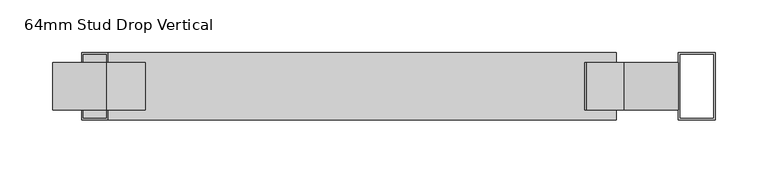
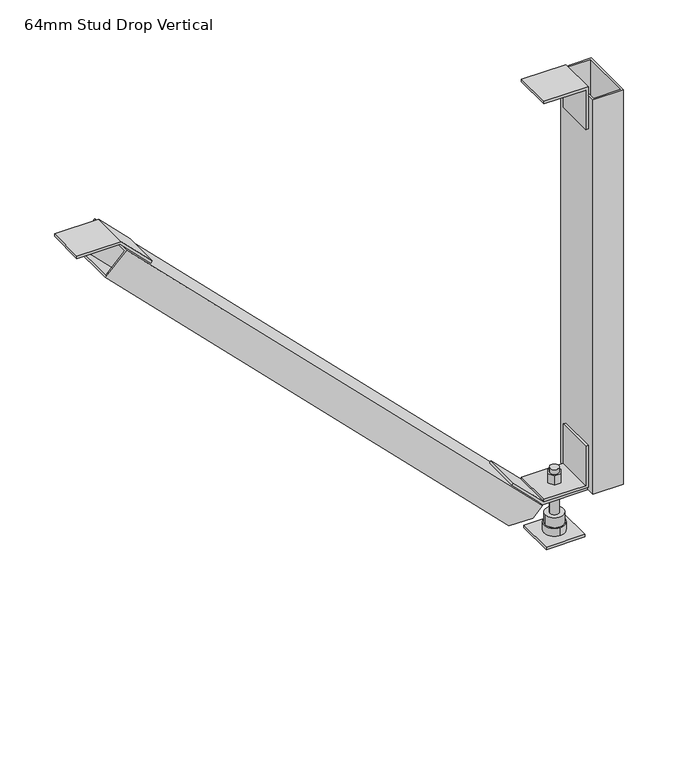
"""IFC4 building model written with IfcOpenShell, lengths in millimetres: beam geometry, Vertibrace Boxstud Brace : 64mm Stud Drop Vertical."""

from ifc_helpers import new_model, si_unit, frame, origin, origin_with_axes, place, context, project, spatial, polyline, circle_curve, outline, extrude, faceted_brep, source, transform, mapped, element, save
from ifc_brep_helpers import plane_surface, cylinder_surface, advanced_brep


def beam_64mm_stud_drop_vertical_d4cb6fa7(model_context):
    return source(origin(), model_context, "Body", "SolidModel", [
        extrude(outline(polyline([(547.0013294, 23.235654), (498.7734408, 23.235654), (498.7734408, 26.2343246), (550.0, 26.2343246), (550.0, -24.9922346), (547.0013294, -24.9922346), (547.0013294, 23.235654)])), frame((0.0, -22.5, 0.0), z_axis=(0.0, 1.0, 0.0), x_axis=(0.0, 0.0, 1.0)), (0.0, 0.0, 1.0), 45.0),
        extrude(outline(polyline([(547.0013294, -516.535654), (511.6569723, -481.1912969), (513.7773526, -479.0709166), (550.0, -515.293564), (550.0, -566.5201232), (547.0013294, -566.5201232), (547.0013294, -516.535654)])), frame((0.0, -22.5, 0.0), z_axis=(0.0, 1.0, 0.0), x_axis=(0.0, 0.0, 1.0)), (0.0, 0.0, 1.0), 45.0),
        extrude(outline(polyline([(62.6986706, 23.235654), (62.6986706, -24.9922346), (59.7, -24.9922346), (59.7, 26.2343246), (110.9265592, 26.2343246), (110.9265592, 23.235654), (62.6986706, 23.235654)])), frame((0.0, -22.5, 0.0), z_axis=(0.0, 1.0, 0.0), x_axis=(0.0, 0.0, 1.0)), (0.0, 0.0, 1.0), 45.0),
        extrude(outline(polyline([(59.6986706, -24.9922346), (95.0430277, -60.3365917), (92.9226474, -62.456972), (56.7, -26.2343246), (56.7, 24.9922346), (59.6986706, 24.9922346), (59.6986706, -24.9922346)])), frame((0.0, -22.5, 0.0), z_axis=(0.0, 1.0, 0.0), x_axis=(0.0, 0.0, 1.0)), (0.0, 0.0, 1.0), 45.0),
        extrude(outline(polyline([(22.5, 22.5), (22.5, -22.5), (-22.5, -22.5), (-22.5, 22.5), (22.5, 22.5)])), origin_with_axes(), (0.0, 0.0, 1.0), 3.0),
        advanced_brep(
        [(-5.0, 0.0, -10.0), (5.0, 0.0, -10.0), (-5.0, 0.0, 80.0), (5.0, 0.0, 80.0), (5.0, 0.0, 3.0), (-5.0, 0.0, 3.0), (-5.0, 0.0, 74.4), (5.0, 0.0, 74.4), (-5.0, 0.0, 25.0), (5.0, 0.0, 25.0), (5.0, 0.0, 50.0), (-5.0, 0.0, 50.0), (5.0, 0.0, 62.7), (-5.0, 0.0, 62.7), (-5.0, 0.0, 56.7), (5.0, 0.0, 56.7), (-10.5, 0.0, 25.0), (10.5, 0.0, 25.0), (-10.5, 0.0, 13.0), (10.5, 0.0, 13.0), (0.0, -12.0, 13.0), (0.0, 12.0, 13.0), (3.75, 6.4951905, 74.4), (-3.75, 6.4951905, 74.4), (-7.5, 0.0, 74.4), (-3.75, -6.4951905, 74.4), (3.75, -6.4951905, 74.4), (7.5, 0.0, 74.4), (3.75, 6.4951905, 62.7), (7.5, 0.0, 62.7), (3.75, -6.4951905, 62.7), (-3.75, -6.4951905, 62.7), (-7.5, 0.0, 62.7), (-3.75, 6.4951905, 62.7), (-10.9696551, 0.0, 56.7), (-5.4848276, -9.5, 56.7), (5.4848276, -9.5, 56.7), (10.9696551, 0.0, 56.7), (5.4848276, 9.5, 56.7), (-5.4848276, 9.5, 56.7), (-10.9696551, 0.0, 50.0), (-5.4848276, 9.5, 50.0), (5.4848276, 9.5, 50.0), (10.9696551, 0.0, 50.0), (5.4848276, -9.5, 50.0), (-5.4848276, -9.5, 50.0), (0.0, -12.0, 3.0), (0.0, 12.0, 3.0)],
        [
            (0, 1, circle_curve(frame((0.0, 0.0, -10.0), z_axis=(0.0, 0.0, -1.0), x_axis=(1.0, 0.0, 0.0)), 5.0)),
            (1, 0, circle_curve(frame((0.0, 0.0, -10.0), z_axis=(0.0, 0.0, -1.0), x_axis=(1.0, 0.0, 0.0)), 5.0)),
            (2, 3, circle_curve(frame((0.0, 0.0, 80.0), z_axis=(0.0, 0.0, 1.0), x_axis=(1.0, 0.0, 0.0)), 5.0)),
            (3, 2, circle_curve(frame((0.0, 0.0, 80.0), z_axis=(0.0, 0.0, 1.0), x_axis=(1.0, 0.0, 0.0)), 5.0)),
            (1, 4),
            (4, 5, circle_curve(frame((0.0, 0.0, 3.0), z_axis=(0.0, 0.0, -1.0), x_axis=(1.0, 0.0, 0.0)), 5.0)),
            (5, 0),
            (2, 6),
            (6, 7, circle_curve(frame((0.0, 0.0, 74.4), z_axis=(0.0, 0.0, 1.0), x_axis=(1.0, 0.0, 0.0)), 5.0)),
            (7, 3),
            (8, 9, circle_curve(frame((0.0, 0.0, 25.0), z_axis=(0.0, 0.0, 1.0), x_axis=(1.0, 0.0, 0.0)), 5.0)),
            (9, 10),
            (10, 11, circle_curve(frame((0.0, 0.0, 50.0), z_axis=(0.0, 0.0, -1.0), x_axis=(1.0, 0.0, 0.0)), 5.0)),
            (11, 8),
            (12, 13, circle_curve(frame((0.0, 0.0, 62.7), z_axis=(0.0, 0.0, -1.0), x_axis=(1.0, 0.0, 0.0)), 5.0)),
            (13, 14),
            (14, 15, circle_curve(frame((0.0, 0.0, 56.7), z_axis=(0.0, 0.0, 1.0), x_axis=(1.0, 0.0, 0.0)), 5.0)),
            (15, 12),
            (5, 4, circle_curve(frame((0.0, 0.0, 3.0), z_axis=(0.0, 0.0, -1.0), x_axis=(1.0, 0.0, 0.0)), 5.0)),
            (7, 6, circle_curve(frame((0.0, 0.0, 74.4), z_axis=(0.0, 0.0, 1.0), x_axis=(1.0, 0.0, 0.0)), 5.0)),
            (9, 8, circle_curve(frame((0.0, 0.0, 25.0), z_axis=(0.0, 0.0, 1.0), x_axis=(1.0, 0.0, 0.0)), 5.0)),
            (11, 10, circle_curve(frame((0.0, 0.0, 50.0), z_axis=(0.0, 0.0, -1.0), x_axis=(1.0, 0.0, 0.0)), 5.0)),
            (13, 12, circle_curve(frame((0.0, 0.0, 62.7), z_axis=(0.0, 0.0, -1.0), x_axis=(1.0, 0.0, 0.0)), 5.0)),
            (15, 14, circle_curve(frame((0.0, 0.0, 56.7), z_axis=(0.0, 0.0, 1.0), x_axis=(1.0, 0.0, 0.0)), 5.0)),
            (16, 17, circle_curve(frame((0.0, 0.0, 25.0), z_axis=(0.0, 0.0, 1.0), x_axis=(1.0, 0.0, 0.0)), 10.5)),
            (17, 16, circle_curve(frame((0.0, 0.0, 25.0), z_axis=(0.0, 0.0, 1.0), x_axis=(1.0, 0.0, 0.0)), 10.5)),
            (16, 18),
            (18, 19, circle_curve(frame((0.0, 0.0, 13.0), z_axis=(0.0, 0.0, 1.0), x_axis=(1.0, 0.0, 0.0)), 10.5)),
            (19, 17),
            (19, 18, circle_curve(frame((0.0, 0.0, 13.0), z_axis=(0.0, 0.0, 1.0), x_axis=(1.0, 0.0, 0.0)), 10.5)),
            (20, 21, circle_curve(frame((0.0, 0.0, 13.0), z_axis=(0.0, 0.0, 1.0), x_axis=(0.0, 1.0, 0.0)), 12.0)),
            (21, 20, circle_curve(frame((0.0, 0.0, 13.0), z_axis=(0.0, 0.0, 1.0), x_axis=(0.0, 1.0, 0.0)), 12.0)),
            (22, 23),
            (23, 24),
            (24, 25),
            (25, 26),
            (26, 27),
            (27, 22),
            (28, 29),
            (29, 30),
            (30, 31),
            (31, 32),
            (32, 33),
            (33, 28),
            (22, 28),
            (33, 23),
            (32, 24),
            (31, 25),
            (30, 26),
            (29, 27),
            (34, 35),
            (35, 36),
            (36, 37),
            (37, 38),
            (38, 39),
            (39, 34),
            (40, 41),
            (41, 42),
            (42, 43),
            (43, 44),
            (44, 45),
            (45, 40),
            (34, 40),
            (45, 35),
            (44, 36),
            (43, 37),
            (42, 38),
            (41, 39),
            (46, 47, circle_curve(frame((0.0, 0.0, 3.0), z_axis=(0.0, 0.0, -1.0), x_axis=(0.0, 1.0, 0.0)), 12.0)),
            (47, 46, circle_curve(frame((0.0, 0.0, 3.0), z_axis=(0.0, 0.0, -1.0), x_axis=(0.0, 1.0, 0.0)), 12.0)),
            (47, 21),
            (20, 46),
        ],
        [
            plane_surface(frame((5.0, 0.0, -10.0), z_axis=(0.0, 0.0, -1.0), x_axis=(0.0, -1.0, 0.0))),
            plane_surface(frame((5.0, 0.0, 80.0), z_axis=(0.0, 0.0, 1.0), x_axis=(0.0, 1.0, 0.0))),
            cylinder_surface(frame((0.0, 0.0, -10.0), z_axis=(0.0, 0.0, 1.0), x_axis=(1.0, 0.0, 0.0)), 5.0),
            plane_surface(frame((10.5, 0.0, 25.0), z_axis=(0.0, 0.0, 1.0), x_axis=(0.0, 1.0, 0.0))),
            cylinder_surface(frame((0.0, 0.0, 13.0), z_axis=(0.0, 0.0, 1.0), x_axis=(1.0, 0.0, 0.0)), 10.5),
            plane_surface(frame((0.0, 12.0, 13.0), z_axis=(0.0, 0.0, 1.0), x_axis=(-1.0, 0.0, 0.0))),
            plane_surface(frame((3.75, 6.4951905, 74.4), z_axis=(0.0, 0.0, 1.0), x_axis=(-1.0, 0.0, 0.0))),
            plane_surface(frame((3.75, 6.4951905, 62.7), z_axis=(0.0, 0.0, -1.0), x_axis=(1.0, 0.0, 0.0))),
            plane_surface(frame((3.75, 6.4951905, 74.4), z_axis=(0.0, 1.0, 0.0), x_axis=(0.0, 0.0, -1.0))),
            plane_surface(frame((-3.75, 6.4951905, 74.4), z_axis=(-0.866025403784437, 0.5000000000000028, 0.0), x_axis=(0.0, 0.0, -1.0))),
            plane_surface(frame((-7.5, 0.0, 74.4), z_axis=(-0.8660254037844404, -0.4999999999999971, 0.0), x_axis=(0.0, 0.0, -1.0))),
            plane_surface(frame((-3.75, -6.4951905, 74.4), z_axis=(0.0, -1.0, 0.0), x_axis=(0.0, 0.0, -1.0))),
            plane_surface(frame((3.75, -6.4951905, 74.4), z_axis=(0.8660254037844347, -0.500000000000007, 0.0), x_axis=(0.0, 0.0, -1.0))),
            plane_surface(frame((7.5, 0.0, 74.4), z_axis=(0.8660254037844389, 0.49999999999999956, 0.0), x_axis=(0.0, 0.0, -1.0))),
            plane_surface(frame((-10.9696551, 0.0, 56.7), z_axis=(0.0, 0.0, 1.0), x_axis=(0.49999999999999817, -0.8660254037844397, 0.0))),
            plane_surface(frame((-10.9696551, 0.0, 50.0), z_axis=(0.0, 0.0, -1.0), x_axis=(-0.49999999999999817, 0.8660254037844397, 0.0))),
            plane_surface(frame((-10.9696551, 0.0, 56.7), z_axis=(-0.8660254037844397, -0.49999999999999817, 0.0), x_axis=(0.0, 0.0, -1.0))),
            plane_surface(frame((-5.4848276, -9.5, 56.7), z_axis=(0.0, -1.0, 0.0), x_axis=(0.0, 0.0, -1.0))),
            plane_surface(frame((5.4848276, -9.5, 56.7), z_axis=(0.8660254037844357, -0.5000000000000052, 0.0), x_axis=(0.0, 0.0, -1.0))),
            plane_surface(frame((10.9696551, 0.0, 56.7), z_axis=(0.8660254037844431, 0.49999999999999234, 0.0), x_axis=(0.0, 0.0, -1.0))),
            plane_surface(frame((5.4848276, 9.5, 56.7), z_axis=(0.0, 1.0, 0.0), x_axis=(0.0, 0.0, -1.0))),
            plane_surface(frame((-5.4848276, 9.5, 56.7), z_axis=(-0.866025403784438, 0.5000000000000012, 0.0), x_axis=(0.0, 0.0, -1.0))),
            plane_surface(frame((0.0, 12.0, 3.0), z_axis=(0.0, 0.0, -1.0), x_axis=(1.0, 0.0, 0.0))),
            cylinder_surface(frame((0.0, 0.0, 3.0), z_axis=(0.0, 0.0, 1.0), x_axis=(0.0, 1.0, 0.0)), 12.0),
        ],
        [
            (0, [[1, 2]]),
            (1, [[3, 4]]),
            (2, [[-2, 5, 6, 7]]),
            (2, [[-3, 8, 9, 10]]),
            (2, [[11, 12, 13, 14]]),
            (2, [[15, 16, 17, 18]]),
            (2, [[-1, -7, 19, -5]]),
            (2, [[-4, -10, 20, -8]]),
            (2, [[21, -14, 22, -12]]),
            (2, [[23, -18, 24, -16]]),
            (3, [[25, 26], [-11, -21]]),
            (4, [[-25, 27, 28, 29]]),
            (4, [[-26, -29, 30, -27]]),
            (5, [[31, 32], [-28, -30]]),
            (6, [[33, 34, 35, 36, 37, 38], [-9, -20]]),
            (7, [[39, 40, 41, 42, 43, 44], [-15, -23]]),
            (8, [[-33, 45, -44, 46]]),
            (9, [[-34, -46, -43, 47]]),
            (10, [[-35, -47, -42, 48]]),
            (11, [[-36, -48, -41, 49]]),
            (12, [[-37, -49, -40, 50]]),
            (13, [[-38, -50, -39, -45]]),
            (14, [[51, 52, 53, 54, 55, 56], [-17, -24]]),
            (15, [[57, 58, 59, 60, 61, 62], [-13, -22]]),
            (16, [[-51, 63, -62, 64]]),
            (17, [[-52, -64, -61, 65]]),
            (18, [[-53, -65, -60, 66]]),
            (19, [[-54, -66, -59, 67]]),
            (20, [[-55, -67, -58, 68]]),
            (21, [[-56, -68, -57, -63]]),
            (22, [[69, 70], [-6, -19]]),
            (23, [[-70, 71, -31, 72]]),
            (23, [[-69, -72, -32, -71]]),
        ],
    ),
        extrude(outline(polyline([(26.2343246, 32.0), (61.2343246, 32.0), (61.2343246, -32.0), (26.2343246, -32.0), (26.2343246, 32.0)]), holes=[polyline([(59.2343246, -30.0), (59.2343246, 30.0), (28.2343246, 30.0), (28.2343246, -30.0), (59.2343246, -30.0)])]), frame((0.0, 0.0, 56.7), z_axis=(0.0, 0.0, 1.0), x_axis=(1.0, 0.0, 0.0)), (0.0, 0.0, 1.0), 483.3),
        faceted_brep([(-32.5343246, 32.0, 63.0), (-32.5343246, -32.0, 63.0), (-43.5343246, -32.0, 52.0), (-43.5343246, -30.0, 52.0), (-33.9485382, -30.0, 61.5857864), (-33.9485382, 30.0, 61.5857864), (-43.5343246, 30.0, 52.0), (-43.5343246, 32.0, 52.0), (-514.4883773, -32.0, 544.9540527), (-514.4883773, 32.0, 544.9540527), (-539.2371147, 32.0, 520.2053154), (-539.2371147, -32.0, 520.2053154), (-537.8229011, 30.0, 521.6195289), (-515.9025909, 30.0, 543.5398392), (-515.9025909, -30.0, 543.5398392), (-537.8229011, -30.0, 521.6195289), (-71.0317993, -32.0, 52.0), (-71.0317993, 32.0, 52.0), (-68.2033722, 30.0, 52.0), (-68.2033722, -30.0, 52.0)], [[[0, 1, 2, 3, 4, 5, 6, 7]], [[8, 9, 10, 11], [12, 13, 14, 15]], [[8, 11, 16, 2, 1]], [[11, 10, 17, 16]], [[10, 9, 0, 7, 17]], [[1, 0, 9, 8]], [[3, 2, 16, 17, 7, 6, 18, 19]], [[12, 15, 19, 18]], [[15, 14, 4, 3, 19]], [[5, 4, 14, 13]], [[13, 12, 18, 6, 5]]]),
    ])


if __name__ == "__main__":
    model = new_model("IFC4")
    model_context = context("Model", 3, world=origin())
    ifc_project = project(units=[si_unit("LENGTHUNIT", "METRE", prefix="MILLI")], contexts=[model_context])
    site = spatial("IfcSite", under=ifc_project)
    building = spatial("IfcBuilding", under=site)
    placement = place(None, origin())
    beam_64mm_stud_drop_vertical_shape = beam_64mm_stud_drop_vertical_d4cb6fa7(model_context)
    element("IfcBeam", 1, ObjectType="Vertibrace Boxstud Brace : 64mm Stud Drop Vertical", at=placement, inside=building, context=model_context, shape_type="MappedRepresentation", body=[
        mapped(beam_64mm_stud_drop_vertical_shape, transform((0.0, 0.0, 0.0), x_axis=(1.0, 0.0, 0.0), y_axis=(0.0, 1.0, 0.0), z_axis=(0.0, 0.0, 1.0))),
    ])
    save(model, "model.ifc")
